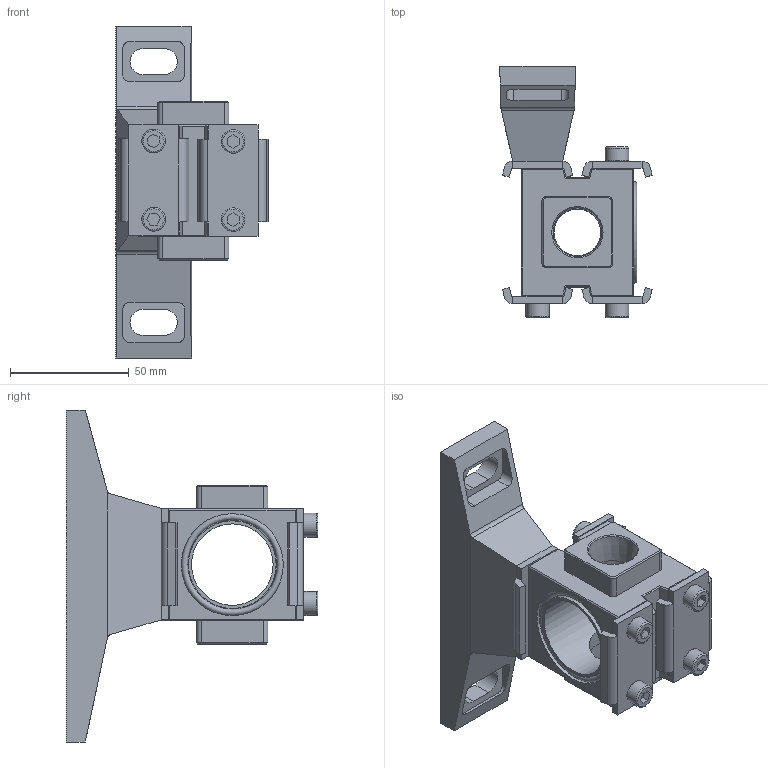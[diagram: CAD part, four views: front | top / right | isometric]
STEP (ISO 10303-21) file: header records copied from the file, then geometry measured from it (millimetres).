
FILE_DESCRIPTION( ( 'Unknown' ), '1' );
FILE_NAME( 'D:/STEP/T15-MACP501.stp', 'Unknown', ( 'Unknown' ), ( 'Unknown' ), 'PSStep 15.0.49', 'Unknown', ' ' );
FILE_SCHEMA( ( 'AUTOMOTIVE_DESIGN { 1 0 10303 214 1 1 1 1 }' ) );
Length unit declared in the file: millimetre
Products named in the file (1): B01242
Bounding box: 64.32 x 106 x 140 mm (x, y, z)
Volume: 137476.4 mm3; surface area: 52936.9 mm2
Topology: 1 solids, 1 shells, 406 faces, 989 edges, 612 vertices
Faces by surface type: plane 259, cylinder 93, sphere 20, torus 20, cone 14
Full cylindrical faces by diameter (mm): 10 x8, 19.793 x2, 34.4 x1, 37 x2, 43 x2
Entity records: 14916 total; most frequent: CARTESIAN_POINT 2227, DIRECTION 1960, ORIENTED_EDGE 1880, EDGE_CURVE 940, LINE 698, VECTOR 698, AXIS2_PLACEMENT_3D 631, VERTEX_POINT 600
